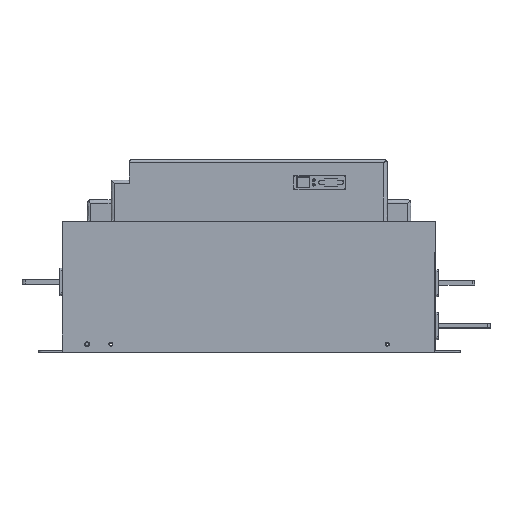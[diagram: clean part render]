
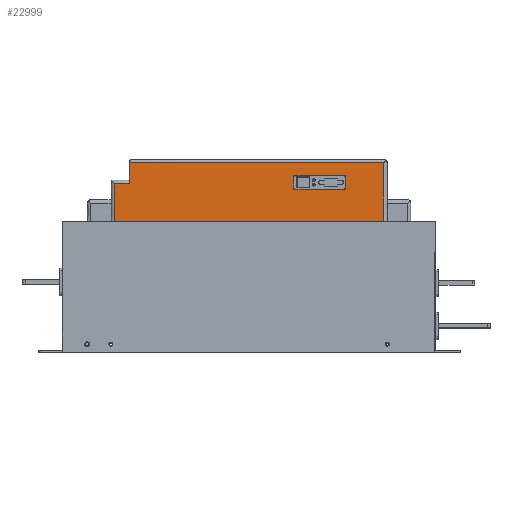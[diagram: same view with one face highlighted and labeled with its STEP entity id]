
A CAD part, top view. The second image highlights one B-rep face of the part: STEP entity #22999.
In plain terms, the highlighted free-form (B-spline) face has degree [1, 1] with [2, 2] control points.
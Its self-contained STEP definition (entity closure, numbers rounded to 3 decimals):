
#527 = B_SPLINE_CURVE_WITH_KNOTS ( 'NONE', 1,
 ( #10921, #5580 ),
 .UNSPECIFIED., .F., .F.,
 ( 2, 2 ),
 ( 0., 1. ),
 .UNSPECIFIED. ) ;
#1521 = ORIENTED_EDGE ( 'NONE', *, *, #51234, .T. ) ;
#2317 = EDGE_LOOP ( 'NONE', ( #53724, #7420, #48473, #56544 ) ) ;
#2928 = EDGE_CURVE ( 'NONE', #41454, #20563, #61718, .T. ) ;
#2933 = CARTESIAN_POINT ( 'NONE',  ( 258., 0., 170. ) ) ;
#3661 = B_SPLINE_CURVE_WITH_KNOTS ( 'NONE', 1,
 ( #35604, #9111 ),
 .UNSPECIFIED., .F., .F.,
 ( 2, 2 ),
 ( 0., 1. ),
 .UNSPECIFIED. ) ;
#3879 = CARTESIAN_POINT ( 'NONE',  ( 258., 57.5, -122. ) ) ;
#5029 = CARTESIAN_POINT ( 'NONE',  ( 258., 40.5, -122. ) ) ;
#5580 = CARTESIAN_POINT ( 'NONE',  ( 258., 0., 170. ) ) ;
#5837 = FACE_BOUND ( 'NONE', #2317, .T. ) ;
#7334 = ORIENTED_EDGE ( 'NONE', *, *, #62897, .T. ) ;
#7420 = ORIENTED_EDGE ( 'NONE', *, *, #47583, .T. ) ;
#7911 = B_SPLINE_CURVE_WITH_KNOTS ( 'NONE', 1,
 ( #3879, #35716 ),
 .UNSPECIFIED., .F., .F.,
 ( 2, 2 ),
 ( 0., 1. ),
 .UNSPECIFIED. ) ;
#8247 = B_SPLINE_CURVE_WITH_KNOTS ( 'NONE', 1,
 ( #41263, #62456 ),
 .UNSPECIFIED., .F., .F.,
 ( 2, 2 ),
 ( 0., 1. ),
 .UNSPECIFIED. ) ;
#8607 = B_SPLINE_CURVE_WITH_KNOTS ( 'NONE', 1,
 ( #5029, #36866 ),
 .UNSPECIFIED., .F., .F.,
 ( 2, 2 ),
 ( 0., 1. ),
 .UNSPECIFIED. ) ;
#9111 = CARTESIAN_POINT ( 'NONE',  ( 258., 74., 151. ) ) ;
#10921 = CARTESIAN_POINT ( 'NONE',  ( 258., 48., 170. ) ) ;
#16350 = ORIENTED_EDGE ( 'NONE', *, *, #2928, .T. ) ;
#18537 = CARTESIAN_POINT ( 'NONE',  ( 258., 74., 170. ) ) ;
#19178 = CARTESIAN_POINT ( 'NONE',  ( 258., 74., 151. ) ) ;
#19463 = VERTEX_POINT ( 'NONE', #44698 ) ;
#19992 = FACE_OUTER_BOUND ( 'NONE', #52690, .T. ) ;
#20563 = VERTEX_POINT ( 'NONE', #56459 ) ;
#21375 = EDGE_CURVE ( 'NONE', #30659, #54682, #31262, .T. ) ;
#22999 = ADVANCED_FACE ( 'NONE', ( #5837, #19992 ), #57887, .T. ) ;
#23424 = CARTESIAN_POINT ( 'NONE',  ( 258., 57.5, -122. ) ) ;
#23842 = CARTESIAN_POINT ( 'NONE',  ( 258., 48., 151. ) ) ;
#24793 = EDGE_CURVE ( 'NONE', #48126, #46495, #37698, .T. ) ;
#26294 = ORIENTED_EDGE ( 'NONE', *, *, #35649, .T. ) ;
#26458 = EDGE_CURVE ( 'NONE', #46495, #49077, #7911, .T. ) ;
#26943 = ORIENTED_EDGE ( 'NONE', *, *, #21375, .T. ) ;
#27343 = VERTEX_POINT ( 'NONE', #35788 ) ;
#28976 = EDGE_CURVE ( 'NONE', #19463, #48126, #44591, .T. ) ;
#29199 = CARTESIAN_POINT ( 'NONE',  ( 258., 74., -170. ) ) ;
#29829 = CARTESIAN_POINT ( 'NONE',  ( 258., 48., 151. ) ) ;
#29838 = EDGE_CURVE ( 'NONE', #50572, #27343, #3661, .T. ) ;
#30659 = VERTEX_POINT ( 'NONE', #23842 ) ;
#31262 = B_SPLINE_CURVE_WITH_KNOTS ( 'NONE', 1,
 ( #56531, #61886 ),
 .UNSPECIFIED., .F., .F.,
 ( 2, 2 ),
 ( 0., 1. ),
 .UNSPECIFIED. ) ;
#33070 = CARTESIAN_POINT ( 'NONE',  ( 258., 57.5, -56.5 ) ) ;
#34747 = CARTESIAN_POINT ( 'NONE',  ( 258., 0., -170. ) ) ;
#35604 = CARTESIAN_POINT ( 'NONE',  ( 258., 74., -170. ) ) ;
#35649 = EDGE_CURVE ( 'NONE', #20563, #50572, #8247, .T. ) ;
#35716 = CARTESIAN_POINT ( 'NONE',  ( 258., 40.5, -122. ) ) ;
#35788 = CARTESIAN_POINT ( 'NONE',  ( 258., 74., 151. ) ) ;
#36866 = CARTESIAN_POINT ( 'NONE',  ( 258., 40.5, -56.5 ) ) ;
#37698 = B_SPLINE_CURVE_WITH_KNOTS ( 'NONE', 1,
 ( #68327, #62954 ),
 .UNSPECIFIED., .F., .F.,
 ( 2, 2 ),
 ( 0., 1. ),
 .UNSPECIFIED. ) ;
#39700 = CARTESIAN_POINT ( 'NONE',  ( 258., 0., 170. ) ) ;
#41263 = CARTESIAN_POINT ( 'NONE',  ( 258., 0., -170. ) ) ;
#41454 = VERTEX_POINT ( 'NONE', #56662 ) ;
#44591 = B_SPLINE_CURVE_WITH_KNOTS ( 'NONE', 1,
 ( #65057, #33070 ),
 .UNSPECIFIED., .F., .F.,
 ( 2, 2 ),
 ( 0., 1. ),
 .UNSPECIFIED. ) ;
#44698 = CARTESIAN_POINT ( 'NONE',  ( 258., 40.5, -56.5 ) ) ;
#46495 = VERTEX_POINT ( 'NONE', #23424 ) ;
#47133 = B_SPLINE_CURVE_WITH_KNOTS ( 'NONE', 1,
 ( #19178, #29829 ),
 .UNSPECIFIED., .F., .F.,
 ( 2, 2 ),
 ( 0., 1. ),
 .UNSPECIFIED. ) ;
#47583 = EDGE_CURVE ( 'NONE', #49077, #19463, #8607, .T. ) ;
#48126 = VERTEX_POINT ( 'NONE', #65226 ) ;
#48473 = ORIENTED_EDGE ( 'NONE', *, *, #28976, .T. ) ;
#49077 = VERTEX_POINT ( 'NONE', #66426 ) ;
#50572 = VERTEX_POINT ( 'NONE', #62419 ) ;
#51234 = EDGE_CURVE ( 'NONE', #27343, #30659, #47133, .T. ) ;
#52690 = EDGE_LOOP ( 'NONE', ( #7334, #16350, #26294, #56632, #1521, #26943 ) ) ;
#53724 = ORIENTED_EDGE ( 'NONE', *, *, #26458, .T. ) ;
#54682 = VERTEX_POINT ( 'NONE', #57284 ) ;
#56459 = CARTESIAN_POINT ( 'NONE',  ( 258., 0., -170. ) ) ;
#56531 = CARTESIAN_POINT ( 'NONE',  ( 258., 48., 151. ) ) ;
#56544 = ORIENTED_EDGE ( 'NONE', *, *, #24793, .T. ) ;
#56632 = ORIENTED_EDGE ( 'NONE', *, *, #29838, .T. ) ;
#56662 = CARTESIAN_POINT ( 'NONE',  ( 258., 0., 170. ) ) ;
#57284 = CARTESIAN_POINT ( 'NONE',  ( 258., 48., 170. ) ) ;
#57887 = B_SPLINE_SURFACE_WITH_KNOTS ( 'NONE', 1, 1, ( 
 ( #39700, #18537 ),
 ( #61168, #29199 ) ),
 .UNSPECIFIED., .F., .F., .F.,
 ( 2, 2 ),
 ( 2, 2 ),
 ( 0., 1. ),
 ( 0., 1. ),
 .UNSPECIFIED. ) ;
#61168 = CARTESIAN_POINT ( 'NONE',  ( 258., 0., -170. ) ) ;
#61718 = B_SPLINE_CURVE_WITH_KNOTS ( 'NONE', 1,
 ( #2933, #34747 ),
 .UNSPECIFIED., .F., .F.,
 ( 2, 2 ),
 ( 0., 1. ),
 .UNSPECIFIED. ) ;
#61886 = CARTESIAN_POINT ( 'NONE',  ( 258., 48., 170. ) ) ;
#62419 = CARTESIAN_POINT ( 'NONE',  ( 258., 74., -170. ) ) ;
#62456 = CARTESIAN_POINT ( 'NONE',  ( 258., 74., -170. ) ) ;
#62897 = EDGE_CURVE ( 'NONE', #54682, #41454, #527, .T. ) ;
#62954 = CARTESIAN_POINT ( 'NONE',  ( 258., 57.5, -122. ) ) ;
#65057 = CARTESIAN_POINT ( 'NONE',  ( 258., 40.5, -56.5 ) ) ;
#65226 = CARTESIAN_POINT ( 'NONE',  ( 258., 57.5, -56.5 ) ) ;
#66426 = CARTESIAN_POINT ( 'NONE',  ( 258., 40.5, -122. ) ) ;
#68327 = CARTESIAN_POINT ( 'NONE',  ( 258., 57.5, -56.5 ) ) ;
